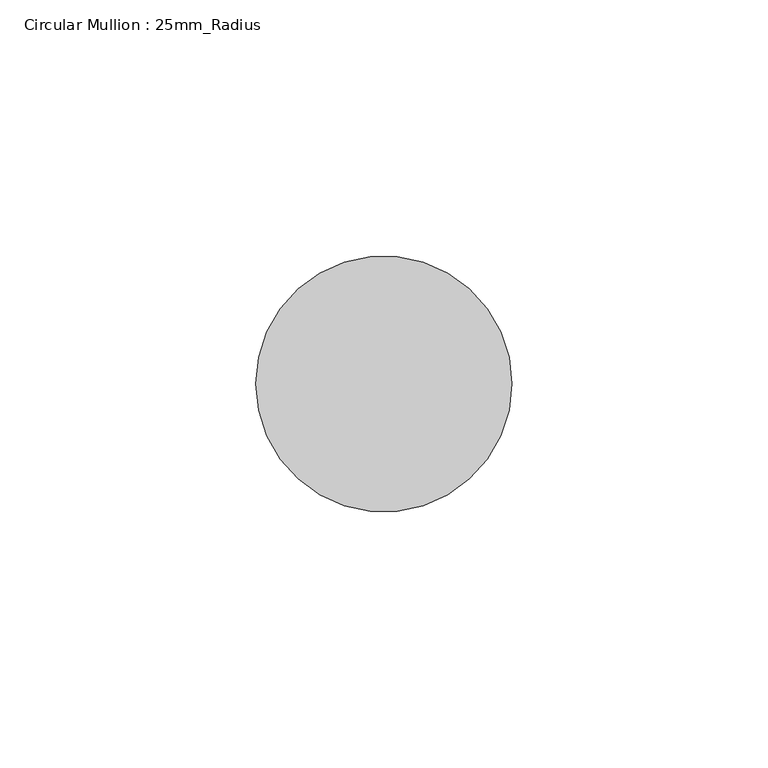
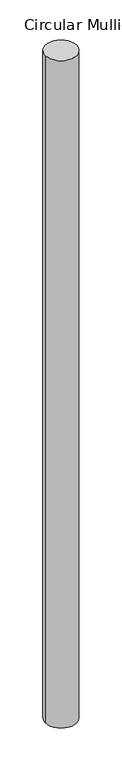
"""IFC4 building model written with IfcOpenShell, lengths in millimetres: member geometry, Circular Mullion : 25mm_Radius."""

from ifc_helpers import new_model, si_unit, point, frame, frame_2d, origin, place, context, project, spatial, circle_curve, trimmed, segment, composite_curve, outline, extrude, source, transform, mapped, element, save


def circular_mullion_25mm_radius_9d38ea95(model_context):
    return source(origin(), model_context, "Body", "SweptSolid", [
        extrude(outline(composite_curve([segment(trimmed(circle_curve(frame_2d((-25.0, 0.0)), 25.0), [point((0.0, 0.0))], [point((-50.0, 0.0))], False, "CARTESIAN"), True, "CONTINUOUS"), segment(trimmed(circle_curve(frame_2d((-25.0, 0.0)), 25.0), [point((-50.0, 0.0))], [point((0.0, 0.0))], False, "CARTESIAN"), True, "CONTINUOUS")], self_intersect=False)), frame((0.0, 0.0, -1123.9983345), z_axis=(0.0, 0.0, 1.0), x_axis=(1.0, 0.0, 0.0)), (0.0, 0.0, 1.0), 1123.9983345),
    ])


if __name__ == "__main__":
    model = new_model("IFC4")
    model_context = context("Model", 3, world=origin())
    ifc_project = project(units=[si_unit("LENGTHUNIT", "METRE", prefix="MILLI")], contexts=[model_context])
    site = spatial("IfcSite", under=ifc_project)
    building = spatial("IfcBuilding", under=site)
    placement = place(None, origin())
    circular_mullion_25mm_radius_shape = circular_mullion_25mm_radius_9d38ea95(model_context)
    element("IfcMember", 1, ObjectType="Circular Mullion : 25mm_Radius", at=placement, inside=building, context=model_context, shape_type="MappedRepresentation", body=[
        mapped(circular_mullion_25mm_radius_shape, transform((0.0, 0.0, 0.0), x_axis=(1.0, 0.0, 0.0), y_axis=(0.0, 1.0, 0.0), z_axis=(0.0, 0.0, 1.0))),
    ])
    save(model, "model.ifc")
